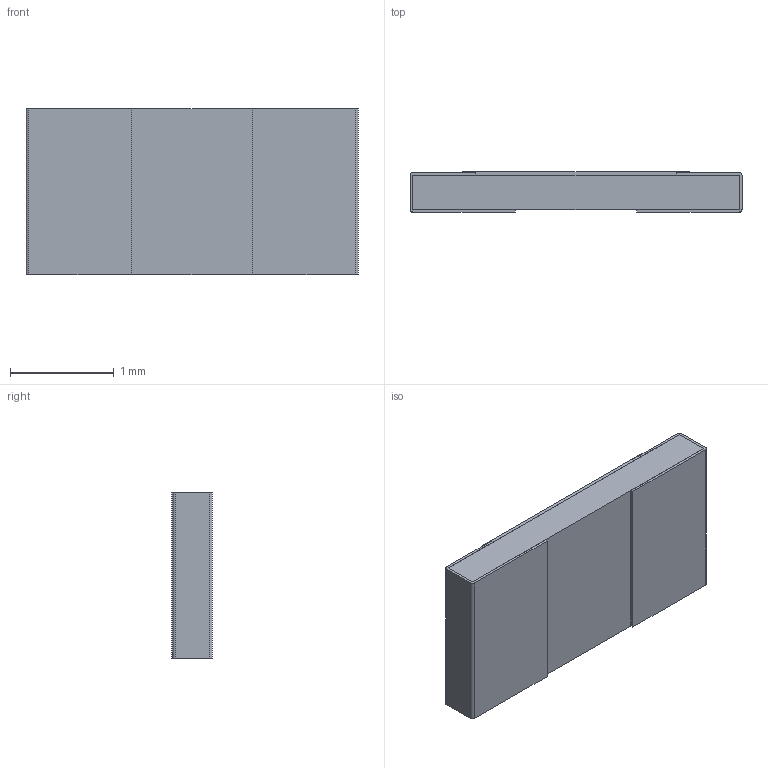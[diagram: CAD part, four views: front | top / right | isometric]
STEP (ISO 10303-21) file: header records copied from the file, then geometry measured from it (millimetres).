
FILE_DESCRIPTION(/* description */ (''),/* implementation_level */ '2;1');
FILE_NAME(/* name */ 'C:\Users\Public\Documents\Autodesk\Inventor LT 2014\Workspace\Vishay\STEP Files\PCNM1206.stp',/* time_stamp */ '2019-10-20T23:29:25-05:00',/* author */ ('Neil'),/* organization */ (''),/* preprocessor_version */ 'ST-DEVELOPER v15.2',/* originating_system */ 'Autodesk Inventor LT ',/* authorisation */ '');
FILE_SCHEMA (('AUTOMOTIVE_DESIGN { 1 0 10303 214 3 1 1 }'));
Length unit declared in the file: inch
Products named in the file (1): PCNM1206
Bounding box: 3.2 x 0.39 x 1.6 mm (x, y, z)
Volume: 1.9 mm3; surface area: 38 mm2
Topology: 6 solids, 6 shells, 82 faces, 210 edges, 140 vertices
Faces by surface type: plane 78, cylinder 4
Entity records: 2491 total; most frequent: CARTESIAN_POINT 433, ORIENTED_EDGE 420, DIRECTION 384, EDGE_CURVE 210, LINE 202, VECTOR 202, VERTEX_POINT 140, AXIS2_PLACEMENT_3D 91
